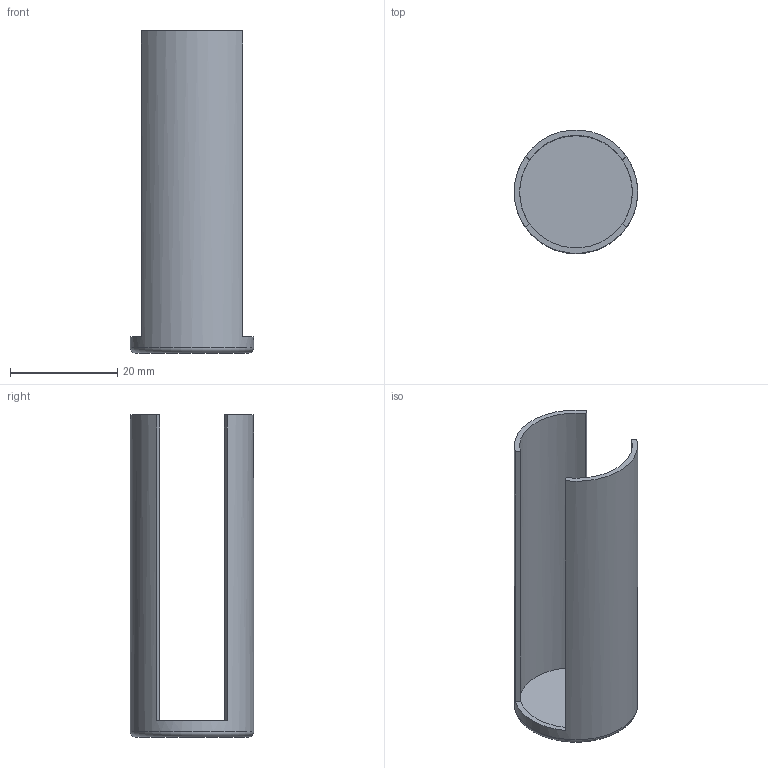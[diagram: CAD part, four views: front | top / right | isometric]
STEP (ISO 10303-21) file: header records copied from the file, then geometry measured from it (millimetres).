
FILE_DESCRIPTION(('STEP AP242'), '1');
FILE_NAME('öèëèíäðèê', '', ('UNSPECIFIED'), ('UNSPECIFIED'), 'C3D Converter', 'C3D Toolkit', '');
FILE_SCHEMA(('AP242_MANAGED_MODEL_BASED_3D_ENGINEERING_MIM_LF { 1 0 10303 442 1 1 4 }'));
Length unit declared in the file: millimetre
Bounding box: 23 x 23 x 60 mm (x, y, z)
Volume: 3294.2 mm3; surface area: 6129 mm2
Topology: 1 solids, 1 shells, 13 faces, 32 edges, 21 vertices
Faces by surface type: plane 10, cylinder 2, torus 1
Full cylindrical faces by diameter (mm): 21 x1, 23 x1
Entity records: 416 total; most frequent: DIRECTION 70, CARTESIAN_POINT 64, ORIENTED_EDGE 58, EDGE_CURVE 29, AXIS2_PLACEMENT_3D 27, VERTEX_POINT 21, EDGE_LOOP 16, LINE 16
